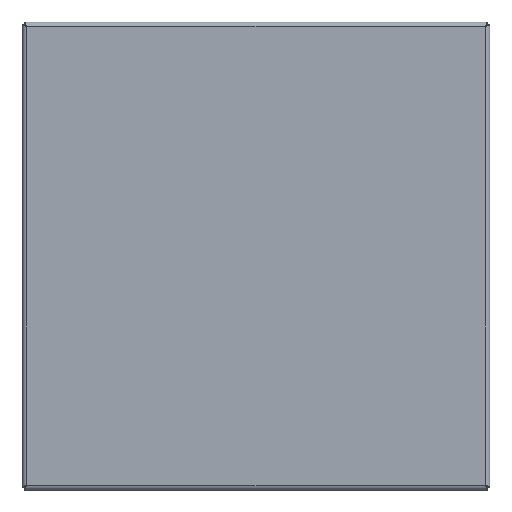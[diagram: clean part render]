
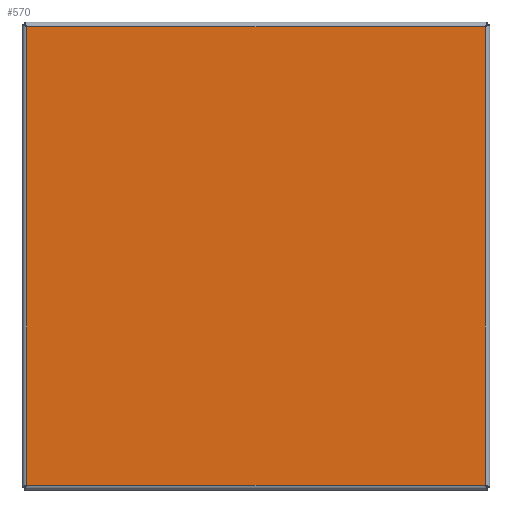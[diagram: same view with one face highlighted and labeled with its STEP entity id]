
A CAD part, top view. The second image highlights one B-rep face of the part: STEP entity #570.
In plain terms, the highlighted planar face has unit normal (0, 0, 1).
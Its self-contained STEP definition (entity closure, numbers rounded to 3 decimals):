
#36=PLANE('',#623);
#82=FACE_OUTER_BOUND('',#120,.T.);
#120=EDGE_LOOP('',(#521,#522,#523,#524));
#150=LINE('',#1297,#210);
#162=LINE('',#1320,#222);
#174=LINE('',#1343,#234);
#186=LINE('',#1366,#246);
#210=VECTOR('',#641,10.);
#222=VECTOR('',#667,10.);
#234=VECTOR('',#693,10.);
#246=VECTOR('',#719,10.);
#258=VERTEX_POINT('',#768);
#264=VERTEX_POINT('',#905);
#270=VERTEX_POINT('',#1042);
#276=VERTEX_POINT('',#1179);
#326=EDGE_CURVE('',#276,#270,#150,.T.);
#338=EDGE_CURVE('',#258,#276,#162,.T.);
#350=EDGE_CURVE('',#270,#264,#174,.T.);
#362=EDGE_CURVE('',#264,#258,#186,.T.);
#521=ORIENTED_EDGE('',*,*,#326,.T.);
#522=ORIENTED_EDGE('',*,*,#350,.T.);
#523=ORIENTED_EDGE('',*,*,#362,.T.);
#524=ORIENTED_EDGE('',*,*,#338,.T.);
#570=ADVANCED_FACE('',(#82),#36,.T.);
#623=AXIS2_PLACEMENT_3D('',#1388,#744,#745);
#641=DIRECTION('',(0.,1.,0.));
#667=DIRECTION('',(1.,0.,0.));
#693=DIRECTION('',(-1.,0.,0.));
#719=DIRECTION('',(0.,-1.,0.));
#744=DIRECTION('center_axis',(0.,0.,1.));
#745=DIRECTION('ref_axis',(1.,0.,0.));
#768=CARTESIAN_POINT('',(-73.43,-73.43,0.));
#905=CARTESIAN_POINT('',(-73.43,73.43,0.));
#1042=CARTESIAN_POINT('',(73.43,73.43,0.));
#1179=CARTESIAN_POINT('',(73.43,-73.43,0.));
#1297=CARTESIAN_POINT('',(73.43,-36.715,0.));
#1320=CARTESIAN_POINT('',(-36.715,-73.43,0.));
#1343=CARTESIAN_POINT('',(36.715,73.43,0.));
#1366=CARTESIAN_POINT('',(-73.43,36.715,0.));
#1388=CARTESIAN_POINT('Origin',(0.,0.,
0.));
